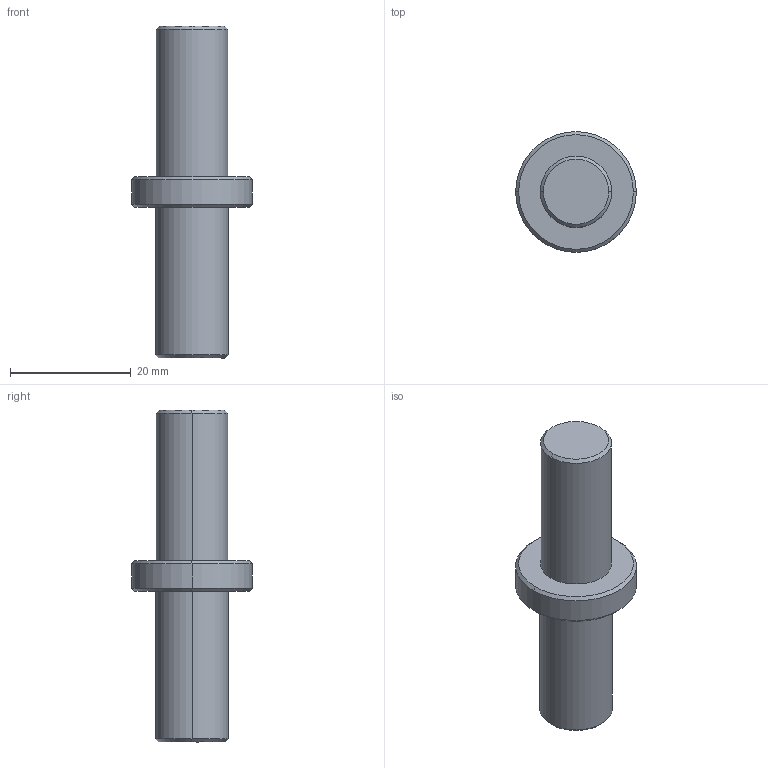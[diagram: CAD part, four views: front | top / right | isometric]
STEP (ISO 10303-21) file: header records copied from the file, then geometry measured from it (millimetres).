
FILE_DESCRIPTION(('CATIA V5 STEP Exchange'),'2;1');
FILE_NAME('D:\姚明阳\1、工装图纸\AGZ122\AGZ122.00_V2\AGZ122.06_V2.stp','2024-12-11T11:33:24+00:00',('none'),('none'),'CATIA Version 5 Release 20 GA (IN-10)','CATIA V5 STEP AP203','none');
FILE_SCHEMA(('CONFIG_CONTROL_DESIGN'));
Length unit declared in the file: millimetre
Products named in the file (1): AGZ122.06_V2
Bounding box: 20 x 20 x 55 mm (x, y, z)
Volume: 6683.6 mm3; surface area: 3034.5 mm2
Topology: 1 solids, 1 shells, 21 faces, 40 edges, 24 vertices
Faces by surface type: cylinder 8, cone 8, plane 5
Entity records: 532 total; most frequent: CARTESIAN_POINT 82, ORIENTED_EDGE 80, DIRECTION 74, AXIS2_PLACEMENT_3D 42, EDGE_CURVE 40, CIRCLE 24, EDGE_LOOP 24, VERTEX_POINT 24
